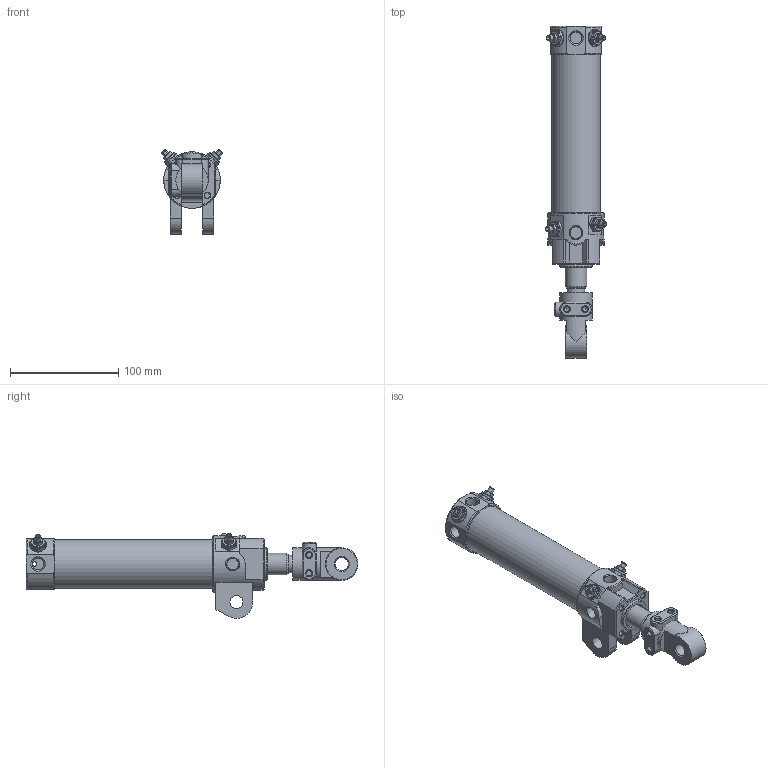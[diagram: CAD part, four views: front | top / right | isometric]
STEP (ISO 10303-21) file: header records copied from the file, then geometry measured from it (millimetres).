
FILE_DESCRIPTION((''),'2;1');
FILE_NAME('I:\3D電子目錄\氣缸\DCK\DCK\DCK-1B-40x100-I.stp','2008-02-26T10:59:26',('Administrator'),(''),'Autodesk Inventor 11','Autodesk Inventor 11','');
FILE_SCHEMA(('AUTOMOTIVE_DESIGN { 1 0 10303 214 1 1 1 1 }'));
Length unit declared in the file: millimetre
Products named in the file (6): DCK-1B-40-I; 緩衝針; 緩衝針-1; 緩衝針-201; 緩衝針-3
Assembly tree (8 placements, depth 3):
  DCK-1B-40-I
    DCK-1B-40-I
    緩衝針  x4
      緩衝針-1
      緩衝針-201
      緩衝針-3
Bounding box: 56.06 x 306 x 78.02 mm (x, y, z)
Volume: 233445.4 mm3; surface area: 102895.3 mm2
Topology: 16 solids, 16 shells, 688 faces, 1580 edges, 982 vertices
Faces by surface type: plane 234, cylinder 209, cone 144, bspline 64, torus 35, sphere 2
Full cylindrical faces by diameter (mm): 2 x1, 3 x3, 3.8 x2, 4 x6, 4.6 x4, 5 x8, 5.1 x4, 5.2 x12, 5.5 x4, 7 x1, 7.25 x1, 7.9 x4, 8 x2, 8.3 x1, 10 x2, 12 x3, 12.8 x4, 16 x3, 20 x1, 21 x1, 22 x3, 23 x1, 24.7 x1, 26 x1, 28 x1, 29 x1, 30 x3, 33 x1, 40 x1, 42 x2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
Entity records: 23140 total; most frequent: CARTESIAN_POINT 13908, DIRECTION 1810, ORIENTED_EDGE 1772, EDGE_CURVE 886, AXIS2_PLACEMENT_3D 781, EDGE_LOOP 625, VERTEX_POINT 617, FACE_OUTER_BOUND 437
